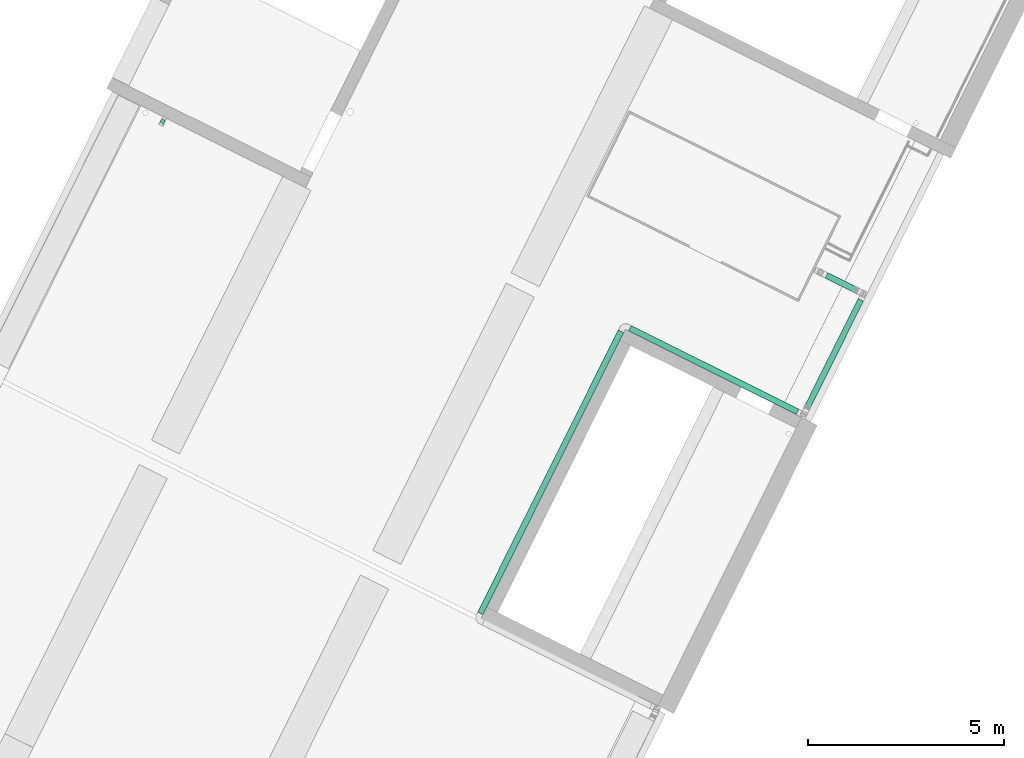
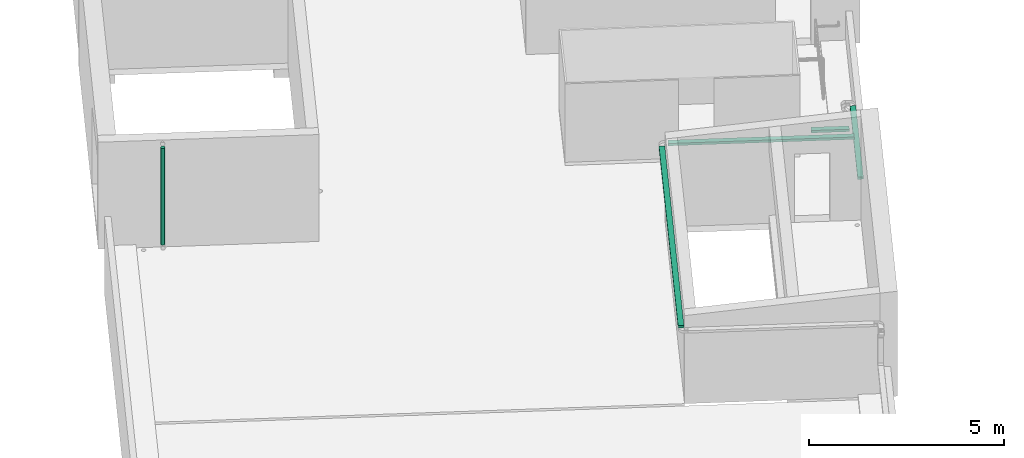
# One storey, part 11 of 34: 5 flow segments.
"""IFC2X3 building model written with IfcOpenShell, lengths in metres."""

import ifcopenshell
import ifcopenshell.guid

model = None  # the IFC model being written
_history = None  # IfcOwnerHistory: only IFC2X3 demands one
_inside = {}  # id of a spatial element -> (the spatial element, [elements in it])
_under = {}  # id of a project, library or spatial element -> (it, [spatial elements below it])
_declared = {}  # id of a project -> (the project, [libraries it declares])
_typed = {}  # id of a type object -> (the type object, [elements of that type])
_made_of = {}  # id of a material, layer set ... -> (it, [elements and type objects made of it])


def new_model(schema):
    """Start an empty IFC model of exactly this schema.

    Asked for "IFC4X3", IfcOpenShell would pick the latest addendum, in which some entities
    have other attributes; the version numbers below select the first issue.
    IFC2X3 requires an IfcOwnerHistory on every rooted entity: one is made here for all.
    """
    global model, _history
    if schema == "IFC4X3":
        model = ifcopenshell.file(schema_version=(4, 3, 0, 0))
    else:
        model = ifcopenshell.file(schema=schema)
    _inside.clear()
    _under.clear()
    _declared.clear()
    _typed.clear()
    _made_of.clear()
    _history = None
    if model.schema == "IFC2X3":
        org = make("IfcOrganization", Name="unknown")
        user = make(
            "IfcPersonAndOrganization",
            ThePerson=make("IfcPerson", FamilyName="unknown"),
            TheOrganization=org,
        )
        app = make(
            "IfcApplication",
            ApplicationDeveloper=org,
            Version="unknown",
            ApplicationFullName="unknown",
            ApplicationIdentifier="unknown",
        )
        _history = make(
            "IfcOwnerHistory",
            OwningUser=user,
            OwningApplication=app,
            ChangeAction="ADDED",
            CreationDate=0,
        )
    return model


def make(cls, **values):
    """One entity of the class cls with the attributes given. An attribute that is None is left unset."""
    return model.create_entity(
        cls, **{name: value for name, value in values.items() if value is not None}
    )


def entity(cls, *values):
    """Any entity or typed value of the class cls, its attributes in the order of the schema. None: left unset."""
    e = model.create_entity(cls)
    for i, value in enumerate(values):
        if value is not None:
            e[i] = value
    return e


def rooted(cls, **values):
    """An entity with a GlobalId (a new one), such as an element, a storey or a relation."""
    return make(cls, GlobalId=ifcopenshell.guid.new(), OwnerHistory=_history, **values)


def si_unit(unit_type, name, prefix=None):
    """IfcSIUnit, for example si_unit("LENGTHUNIT", "METRE", prefix="MILLI")."""
    return make("IfcSIUnit", UnitType=unit_type, Prefix=prefix, Name=name)


def converted_unit(unit_type, name, factor, base, dimensions=None, offset=None):
    """IfcConversionBasedUnit, such as the inch: factor (a typed value) times the base unit."""
    return make(
        "IfcConversionBasedUnit"
        if offset is None
        else "IfcConversionBasedUnitWithOffset",
        ConversionOffset=offset,
        Dimensions=None
        if dimensions is None
        else entity("IfcDimensionalExponents", *dimensions),
        UnitType=unit_type,
        Name=name,
        ConversionFactor=make(
            "IfcMeasureWithUnit", ValueComponent=factor, UnitComponent=base
        ),
    )


def derived_unit(unit_type, elements):
    """IfcDerivedUnit: a product of units, each with its exponent."""
    return make(
        "IfcDerivedUnit",
        Elements=[
            make("IfcDerivedUnitElement", Unit=unit, Exponent=power)
            for unit, power in elements
        ],
        UnitType=unit_type,
    )


def assignment(units):
    """IfcUnitAssignment: the units of a project."""
    return None if units is None else make("IfcUnitAssignment", Units=units)


def point(xyz):
    """IfcCartesianPoint."""
    return None if xyz is None else make("IfcCartesianPoint", Coordinates=xyz)


def direction(xyz):
    """IfcDirection."""
    return None if xyz is None else make("IfcDirection", DirectionRatios=xyz)


def frame(location, z_axis=None, x_axis=None):
    """IfcAxis2Placement3D, a coordinate frame: its origin and axes. An axis left out is left unset."""
    return make(
        "IfcAxis2Placement3D",
        Location=point(location),
        Axis=direction(z_axis),
        RefDirection=direction(x_axis),
    )


def frame_2d(location, x_axis=None):
    """IfcAxis2Placement2D, a coordinate frame in the plane: its origin and x axis."""
    return make(
        "IfcAxis2Placement2D", Location=point(location), RefDirection=direction(x_axis)
    )


def origin():
    """The frame at (0, 0, 0) with its axes left unset."""
    return frame((0.0, 0.0, 0.0))


def origin_2d_with_axis():
    """The frame at (0, 0) in the plane with the x axis (1, 0) written out."""
    return frame_2d((0.0, 0.0), x_axis=(1.0, 0.0))


def place(relative_to, where):
    """IfcLocalPlacement: puts the frame where relative to a parent placement (None: the world)."""
    return make(
        "IfcLocalPlacement", PlacementRelTo=relative_to, RelativePlacement=where
    )


def context(
    kind, dimensions, precision=None, world=None, true_north=None, identifier=None
):
    """IfcGeometricRepresentationContext, for example the 3D "Model" context."""
    return make(
        "IfcGeometricRepresentationContext",
        ContextIdentifier=identifier,
        ContextType=kind,
        CoordinateSpaceDimension=dimensions,
        Precision=precision,
        WorldCoordinateSystem=world,
        TrueNorth=true_north,
    )


def subcontext(parent, identifier, kind, view, scale=None):
    """IfcGeometricRepresentationSubContext, for example "Body" below "Model"."""
    return make(
        "IfcGeometricRepresentationSubContext",
        ContextIdentifier=identifier,
        ContextType=kind,
        ParentContext=parent,
        TargetScale=scale,
        TargetView=view,
    )


def project(units=None, contexts=None):
    """IfcProject with its units and contexts."""
    return rooted(
        "IfcProject",
        Name="project",
        RepresentationContexts=contexts,
        UnitsInContext=assignment(units),
    )


def spatial(cls, under=None, at=None, **own):
    """A site, building, storey or space (cls), placed at a placement, below another one or the project."""
    s = rooted(cls, ObjectPlacement=at, **own)
    if under is not None:
        _under.setdefault(under.id(), (under, []))[1].append(s)
    return s


def profile(cls, at=None, kind="AREA", **sizes):
    """A parametric profile (cls). Its sizes go by their IFC names, for example OverallWidth=200.0."""
    return make(cls, ProfileType=kind, Position=at, **sizes)


def rectangle(**sizes):
    """IfcRectangleProfileDef."""
    return profile("IfcRectangleProfileDef", **sizes)


def circle(**sizes):
    """IfcCircleProfileDef."""
    return profile("IfcCircleProfileDef", **sizes)


def extrude(swept, where, along, depth):
    """IfcExtrudedAreaSolid: the profile swept, set in the frame where, extruded along a direction by depth."""
    return make(
        "IfcExtrudedAreaSolid",
        SweptArea=swept,
        Position=where,
        ExtrudedDirection=direction(along),
        Depth=depth,
    )


def shape(context_of_items, identifier, shape_type, items):
    """IfcShapeRepresentation: the items that make up one representation, for example the "Body"."""
    return make(
        "IfcShapeRepresentation",
        ContextOfItems=context_of_items,
        RepresentationIdentifier=identifier,
        RepresentationType=shape_type,
        Items=items,
    )


def made_of(thing, what):
    """Note that an element or type object is made of a material, layer set ...; save() writes the relation."""
    if what is not None:
        _made_of.setdefault(what.id(), (what, []))[1].append(thing)
    return thing


def type_object(cls, material=None, **own):
    """A type object (cls), such as IfcWallType, which elements share."""
    return made_of(rooted(cls, **own), material)


def element(
    cls,
    number,
    at=None,
    inside=None,
    cuts=None,
    type_object=None,
    material=None,
    context=None,
    identifier="Body",
    shape_type=None,
    held_by="IfcProductDefinitionShape",
    body=None,
    shapes=None,
    **own,
):
    """One element of the class cls, such as IfcWall. Its Tag is "e" and its number.

    at: its placement. inside: the storey or other place that contains it. cuts: it is an
    opening in that element (IfcRelVoidsElement). A single representation is given by context,
    identifier, shape_type and body (its items); several are given by shapes. held_by: the class
    of the entity that holds the representations. save() writes the other relations.
    """
    e = rooted(cls, Tag="e%d" % number, ObjectPlacement=at, **own)
    if body is not None:
        shapes = [shape(context, identifier, shape_type, body)]
    if shapes is not None:
        e.Representation = make(held_by, Representations=shapes)
    if inside is not None:
        _inside.setdefault(inside.id(), (inside, []))[1].append(e)
    if cuts is not None:
        rooted(
            "IfcRelVoidsElement", RelatingBuildingElement=cuts, RelatedOpeningElement=e
        )
    if type_object is not None:
        _typed.setdefault(type_object.id(), (type_object, []))[1].append(e)
    return made_of(e, material)


def aggregate(whole, parts):
    """IfcRelAggregates: a whole, such as a stair, and the parts it consists of."""
    return rooted("IfcRelAggregates", RelatingObject=whole, RelatedObjects=parts)


def save(model, path):
    """Write the relations noted so far, then the file.

    IfcRelAggregates (storeys below a building ...), IfcRelContainedInSpatialStructure (elements
    in a storey), IfcRelDefinesByType, IfcRelAssociatesMaterial and IfcRelDeclares: one each for
    every whole, place, type object, material and project.
    """
    for whole, parts in _under.values():
        aggregate(whole, parts)
    for where, things in _inside.values():
        rooted(
            "IfcRelContainedInSpatialStructure",
            RelatedElements=things,
            RelatingStructure=where,
        )
    for kind, things in _typed.values():
        rooted("IfcRelDefinesByType", RelatedObjects=things, RelatingType=kind)
    for what, things in _made_of.values():
        rooted("IfcRelAssociatesMaterial", RelatedObjects=things, RelatingMaterial=what)
    for by, libraries in _declared.values():
        rooted("IfcRelDeclares", RelatingContext=by, RelatedDefinitions=libraries)
    model.write(path)


model = new_model("IFC2X3")

# Units and contexts
model_context = context("Model", 3, precision=1e-05, world=origin(), true_north=direction((0.894925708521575, 0.446215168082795)))
context_of_model = context(None, 3, precision=1e-05, world=origin(), true_north=direction((0.894925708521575, 0.446215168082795)))
body_context = subcontext(model_context, "Body", "Model", "MODEL_VIEW")
ifc_project = project(units=[si_unit("LENGTHUNIT", "METRE"), si_unit("AREAUNIT", "SQUARE_METRE"), si_unit("VOLUMEUNIT", "CUBIC_METRE"), converted_unit("PLANEANGLEUNIT", "DEGREE", entity("IfcRatioMeasure", 0.0174532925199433), si_unit("PLANEANGLEUNIT", "RADIAN"), dimensions=[0, 0, 0, 0, 0, 0, 0]), si_unit("MASSUNIT", "GRAM", prefix="KILO"), si_unit("TIMEUNIT", "SECOND"), si_unit("FREQUENCYUNIT", "HERTZ"), si_unit("THERMODYNAMICTEMPERATUREUNIT", "DEGREE_CELSIUS"), derived_unit("THERMALTRANSMITTANCEUNIT", [(si_unit("MASSUNIT", "GRAM", prefix="KILO"), 1), (si_unit("THERMODYNAMICTEMPERATUREUNIT", "KELVIN"), -1), (si_unit("TIMEUNIT", "SECOND"), -3)]), derived_unit("VOLUMETRICFLOWRATEUNIT", [(si_unit("LENGTHUNIT", "METRE"), 3), (si_unit("TIMEUNIT", "SECOND"), -1)]), si_unit("ELECTRICCURRENTUNIT", "AMPERE"), si_unit("ELECTRICVOLTAGEUNIT", "VOLT"), si_unit("POWERUNIT", "WATT"), si_unit("FORCEUNIT", "NEWTON", prefix="KILO"), si_unit("ILLUMINANCEUNIT", "LUX"), si_unit("LUMINOUSFLUXUNIT", "LUMEN"), si_unit("LUMINOUSINTENSITYUNIT", "CANDELA"), si_unit("PRESSUREUNIT", "PASCAL")], contexts=[model_context, context_of_model])

# Site, building, storey
site_placement = place(None, frame((218.228324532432, 584.720189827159, 0.0), z_axis=(0.0, 0.0, 1.0), x_axis=(0.446215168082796, 0.894925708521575, 0.0)))
site = spatial("IfcSite", under=ifc_project, at=site_placement, Name="Default", CompositionType="ELEMENT")
building_placement = place(site_placement, origin())
building = spatial("IfcBuilding", under=site, at=building_placement, CompositionType="ELEMENT")
storey_placement = place(building_placement, frame((0.0, 0.0, 8.61)))
storey = spatial("IfcBuildingStorey", under=building, at=storey_placement, Name="2 - Piano Secondo", CompositionType="ELEMENT", Elevation=8.61)

# Flow segments
cable_carrier_segment_type = type_object("IfcCableCarrierSegmentType", Name="Passerella con raccordi:Passerella canale", PredefinedType="NOTDEFINED")
flow_segment_1_placement = place(storey_placement, frame((-12.6993716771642, -8.09107899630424, 2.3125)))
element("IfcFlowSegment", 1, at=flow_segment_1_placement, inside=storey, type_object=cable_carrier_segment_type, Name="Passerella con raccordi:Passerella canale", ObjectType="Passerella con raccordi:Passerella canale", context=body_context, shape_type="SweptSolid", body=[
    extrude(rectangle(XDim=8.0299999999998, YDim=0.150000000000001, at=frame_2d((1.33226762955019e-15, 0.0), x_axis=(1.0, 0.0))), frame((4.0149999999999, 0.0750000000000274, 0.0)), (0.0, 0.0, 1.0), 0.0750000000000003),
])
flow_segment_2_placement = place(storey_placement, frame((-4.57437167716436, -12.9560789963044, 2.3125)))
element("IfcFlowSegment", 2, at=flow_segment_2_placement, inside=storey, type_object=cable_carrier_segment_type, Name="Passerella con raccordi:Passerella canale", ObjectType="Passerella con raccordi:Passerella canale", context=body_context, shape_type="SweptSolid", body=[
    extrude(rectangle(XDim=4.77000000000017, YDim=0.150000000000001, at=frame_2d((4.44089209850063e-16, 0.0), x_axis=(1.0, 0.0))), frame((0.0750000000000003, 2.38500000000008, 0.0), z_axis=(0.0, 0.0, 1.0), x_axis=(0.0, -1.0, 0.0)), (0.0, 0.0, 1.0), 0.0750000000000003),
])
flow_segment_3_placement = place(storey_placement, frame((-4.41437167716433, -13.2010789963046, 0.947500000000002)))
element("IfcFlowSegment", 3, at=flow_segment_3_placement, inside=storey, type_object=cable_carrier_segment_type, Name="Passerella con raccordi:Passerella canale", ObjectType="Passerella con raccordi:Passerella canale", context=body_context, shape_type="SweptSolid", body=[
    extrude(rectangle(XDim=3.18194426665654, YDim=0.150000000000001, at=frame_2d((0.0, -1.08246744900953e-15), x_axis=(1.0, 0.0))), frame((1.59097213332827, 0.0750000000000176, 0.0), z_axis=(0.0, 0.0, 1.0), x_axis=(-1.0, 0.0, 0.0)), (0.0, 0.0, 1.0), 0.0750000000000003),
])
flow_segment_4_placement = place(storey_placement, frame((-1.13742741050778, -13.0410789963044, 0.149999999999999)))
element("IfcFlowSegment", 4, at=flow_segment_4_placement, inside=storey, type_object=cable_carrier_segment_type, Name="Passerella con raccordi:Passerella canale", ObjectType="Passerella con raccordi:Passerella canale", context=body_context, shape_type="SweptSolid", body=[
    extrude(rectangle(XDim=0.976824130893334, YDim=0.15, at=frame_2d((-1.08246744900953e-15, -1.31838984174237e-16), x_axis=(1.0, 0.0))), frame((0.0750000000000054, 0.488412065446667, 0.0), z_axis=(0.0, 0.0, 1.0), x_axis=(0.0, 1.0, 0.0)), (0.0, 0.0, 1.0), 0.0750000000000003),
])
pipe_segment_type = type_object("IfcPipeSegmentType", Name="Tubazione:Pluviale-Tubazione Inox", PredefinedType="NOTDEFINED")
flow_segment_5_placement = place(storey_placement, frame((-5.15168029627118, 4.75017573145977, 0.165887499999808)))
element("IfcFlowSegment", 5, at=flow_segment_5_placement, inside=storey, type_object=pipe_segment_type, Name="Tubazione:Pluviale-Tubazione Inox", ObjectType="Tubazione:Pluviale-Tubazione Inox", context=body_context, shape_type="SweptSolid", body=[
    extrude(circle(Radius=0.05715, at=origin_2d_with_axis()), frame((0.0587452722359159, 0.0587452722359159, 0.0)), (0.0, 0.0, 1.0), 3.02252500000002),
])

save(model, "model.ifc")
